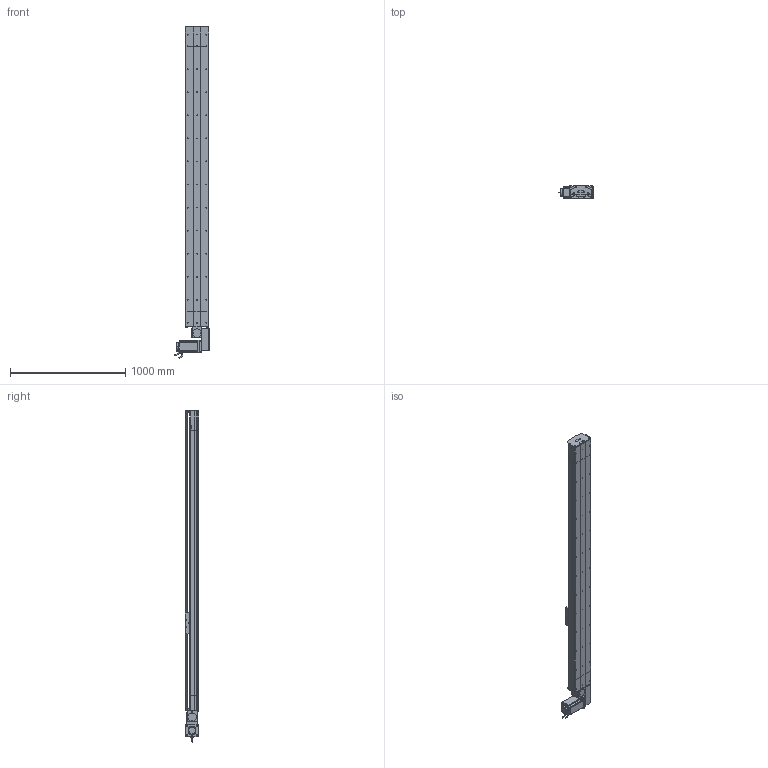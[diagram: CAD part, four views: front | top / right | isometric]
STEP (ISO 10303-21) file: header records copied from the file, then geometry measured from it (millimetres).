
FILE_DESCRIPTION (( 'STEP AP214' ), '1' );
FILE_NAME ('D20 TBH LH S2300.STEP', '2010-07-01T08:03:16', ( 'Conseil Régional Haute-Normandie' ), ( 'Conseil Régional Haute-Normandie' ), 'SwSTEP 2.0', 'SolidWorks 2010', '' );
FILE_SCHEMA (( 'AUTOMOTIVE_DESIGN' ));
Length unit declared in the file: millimetre
Products named in the file (40): Moteur motionking 110BLDC170A-640x; avant 110BLDC170A-630x; clavette; Conecteur_Default; Conecteur2_Default; vis M5 L12_Default; tete d''axe poulie D20B; couvercle tail D20_Default; vis M5 L8 90°_Default; vis M5 L25_Default; codeur 110BLDC170A-630x; corps 110BLDC170A-630x; vis M8 L12_Default; corpl tail D20 +100_Default; tail D20+100_Default; Couroie tail D20_Default; plaque de  bout tail D20_Default; poulie tail D20_Default; rail tail D20; cache arbre D20_Default; plaque de  bout head D20B LH_Default; poulie head D20_Default; couvercle head D20_Default; rail head D20; vis M5 L70_Default; Plaque racord D20LH_Default; Renvoi LH D20_Default; vis M5 L5_Default; couroie_Default; cache D20_Default; Course B L2300_Default; guide D20B; Chariot D20B; corpl head D20_Default; head LH_Default; rail + couroie  D20 S2300; couvercle D20 S2300_Default; corp D20 S2300_Default; chariot D20B_Default; D20 TBH LH S2300
Assembly tree (71 placements, depth 4):
  D20 TBH LH S2300
    tail D20+100_Default
      couvercle tail D20_Default
      vis M5 L12_Default  x4
      vis M5 L8 90°_Default  x2
      poulie tail D20_Default
      corpl tail D20 +100_Default
      plaque de  bout tail D20_Default
      Couroie tail D20_Default
      vis M5 L25_Default  x2
      rail tail D20
      tete d''axe poulie D20B
    chariot D20B_Default
      guide D20B  x2
      vis M5 L12_Default  x4
      Chariot D20B
    Course B L2300_Default
      corp D20 S2300_Default
      rail + couroie  D20 S2300
      couvercle D20 S2300_Default
    head LH_Default
      vis M5 L70_Default  x4
      vis M5 L12_Default  x10
      corpl head D20_Default
      vis M5 L5_Default  x4
      vis M8 L12_Default  x4
      poulie head D20_Default
      couroie_Default
      plaque de  bout head D20B LH_Default
      Plaque racord D20LH_Default
      vis M5 L25_Default  x2
      Moteur motionking 110BLDC170A-640x
        Conecteur_Default
        clavette
        corps 110BLDC170A-630x
        avant 110BLDC170A-630x
        Conecteur2_Default
        codeur 110BLDC170A-630x
      couvercle head D20_Default
      cache D20_Default  x2
      Renvoi LH D20_Default
      rail head D20
      cache arbre D20_Default
Bounding box: 304.2 x 115.7 x 2880 mm (x, y, z)
Volume: 22328021.1 mm3; surface area: 5426829.9 mm2
Topology: 95 solids, 95 shells, 2813 faces, 7173 edges, 4633 vertices
Faces by surface type: plane 1638, cylinder 851, bspline 136, cone 99, torus 89
Entity records: 89964 total; most frequent: CARTESIAN_POINT 29039, ORIENTED_EDGE 11002, DIRECTION 10356, EDGE_CURVE 5501, VERTEX_POINT 3619, LINE 3532, VECTOR 3532, AXIS2_PLACEMENT_3D 3412
